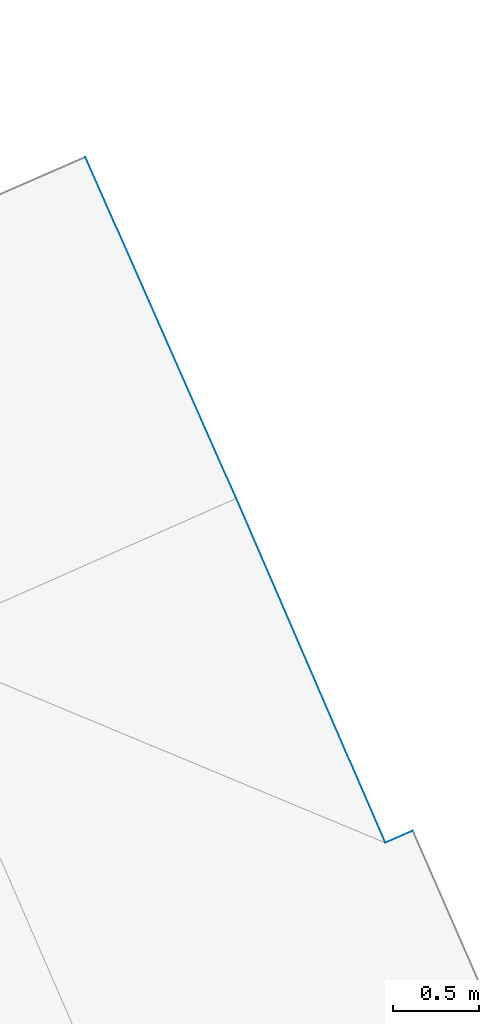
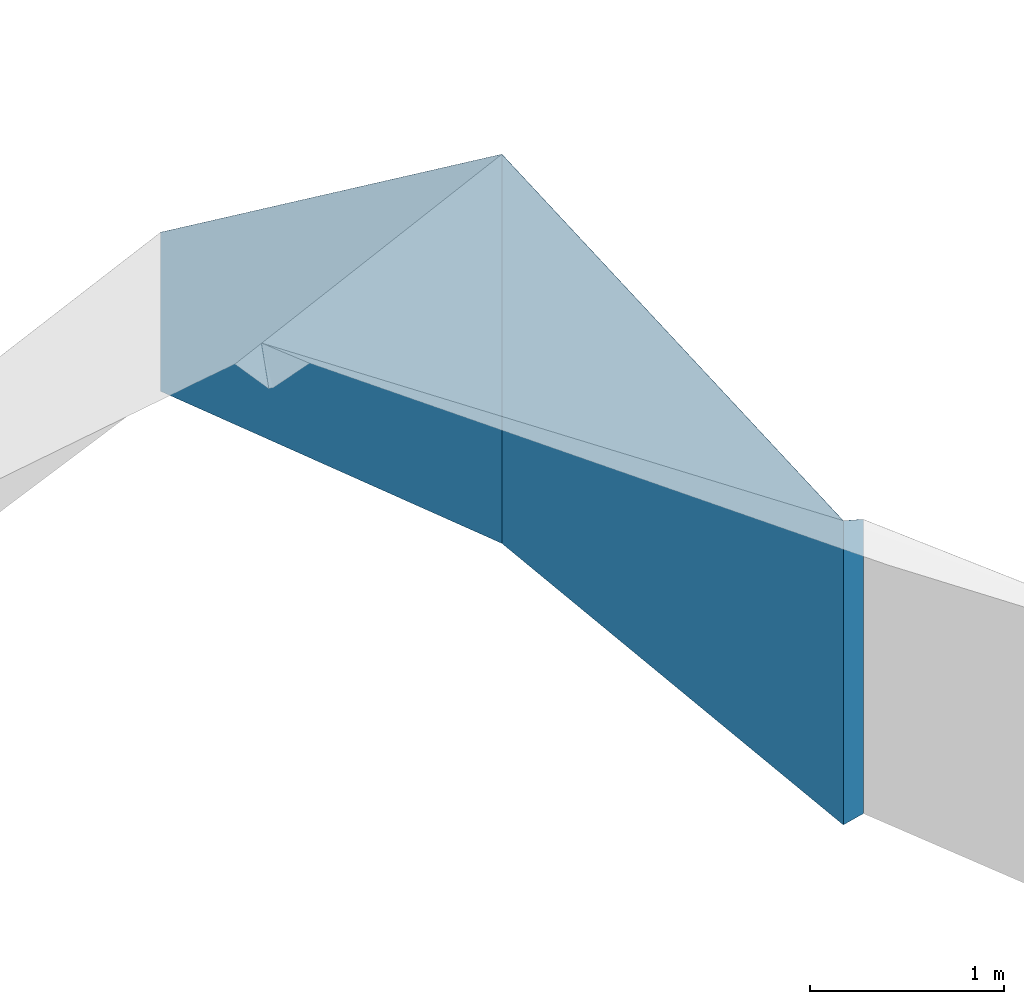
# Not in any storey, part 41 of 59: 3 walls.
"""IFC4 building model written with IfcOpenShell, lengths in metres."""

from ifc_helpers import new_model, entity, si_unit, converted_unit, origin, place, context, subcontext, project, spatial, face_set, surface_model, element, save


model = new_model("IFC4")

# Units and contexts
model_context = context("Model", 3, precision=1e-05, world=origin())
body_context = subcontext(model_context, "Body", "Model", "MODEL_VIEW")
ifc_project = project(units=[converted_unit("PLANEANGLEUNIT", "DEGREE", entity("IfcRatioMeasure", 0.0174532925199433), si_unit("PLANEANGLEUNIT", "RADIAN"), dimensions=[0, 0, 0, 0, 0, 0, 0]), si_unit("AREAUNIT", "SQUARE_METRE"), si_unit("LENGTHUNIT", "METRE")], contexts=[model_context])

# Site, building
site_placement = place(None, origin())
site = spatial("IfcSite", under=ifc_project, at=site_placement, Name="_site")
building_placement = place(site_placement, origin())
building = spatial("IfcBuilding", under=site, at=building_placement, Name="_building")

# Walls
wall_1_placement = place(building_placement, origin())
element("IfcWall", 1, at=wall_1_placement, inside=building, Name="Wall", PredefinedType="NOTDEFINED", context=body_context, shape_type="SurfaceModel", body=[
    surface_model("IfcFaceBasedSurfaceModel", [(239.92, 239.6, 218.7), (240.8, 237.609, 220.09), (240.8, 237.609, 217.643), (239.92, 239.6, 217.7)], [face_set([[[0, 1, 2, 3]]])]),
])
wall_2_placement = place(building_placement, origin())
element("IfcWall", 2, at=wall_2_placement, inside=building, Name="Wall", PredefinedType="NOTDEFINED", context=body_context, shape_type="SurfaceModel", body=[
    surface_model("IfcFaceBasedSurfaceModel", [(240.8, 237.609, 220.09), (241.67, 235.6, 218.7), (241.67, 235.6, 216.787), (240.8, 237.609, 217.643)], [face_set([[[0, 1, 2, 3]]])]),
])
wall_3_placement = place(building_placement, origin())
element("IfcWall", 3, at=wall_3_placement, inside=building, Name="Wall", PredefinedType="NOTDEFINED", context=body_context, shape_type="SurfaceModel", body=[
    surface_model("IfcFaceBasedSurfaceModel", [(241.67, 235.6, 218.7), (241.83, 235.67, 218.61), (241.83, 235.67, 216.76), (241.67, 235.6, 216.787)], [face_set([[[0, 1, 2, 3]]])]),
])

save(model, "model.ifc")
